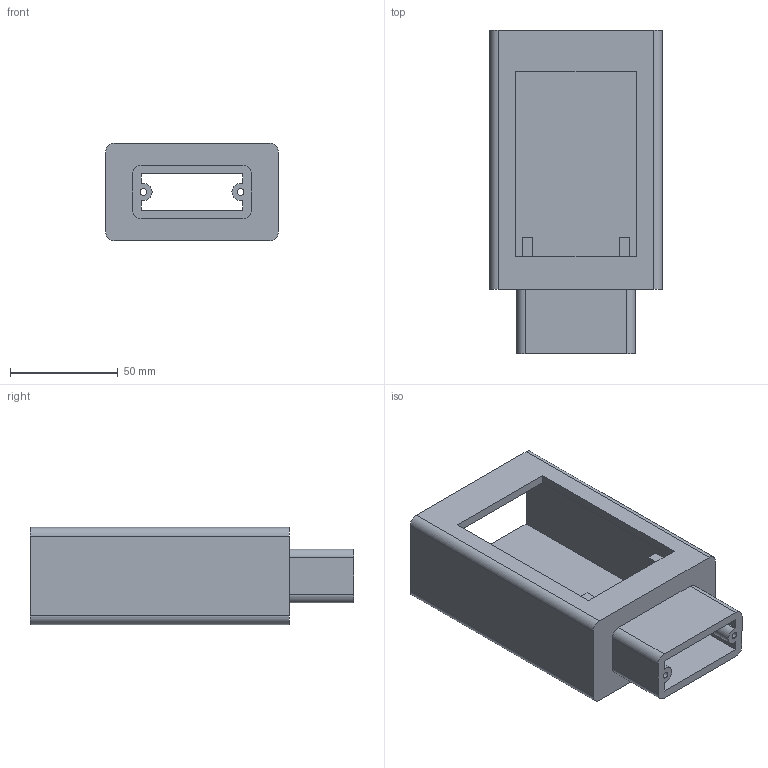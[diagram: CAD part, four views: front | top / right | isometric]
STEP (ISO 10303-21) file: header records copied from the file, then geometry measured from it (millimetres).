
FILE_DESCRIPTION (( 'STEP AP203' ), '1' );
FILE_NAME ('STL-Stab senkrecht.STEP', '2020-10-10T10:05:51', ( '' ), ( '' ), 'SwSTEP 2.0', 'SolidWorks 2018', '' );
FILE_SCHEMA (( 'CONFIG_CONTROL_DESIGN' ));
Length unit declared in the file: millimetre
Products named in the file (1): STL-Stab senkrecht
Bounding box: 80 x 150 x 45 mm (x, y, z)
Volume: 119502.5 mm3; surface area: 62678.5 mm2
Topology: 1 solids, 1 shells, 54 faces, 152 edges, 100 vertices
Faces by surface type: plane 36, cylinder 18
Entity records: 1833 total; most frequent: CARTESIAN_POINT 307, ORIENTED_EDGE 304, DIRECTION 298, EDGE_CURVE 152, LINE 116, VECTOR 116, VERTEX_POINT 100, AXIS2_PLACEMENT_3D 91
